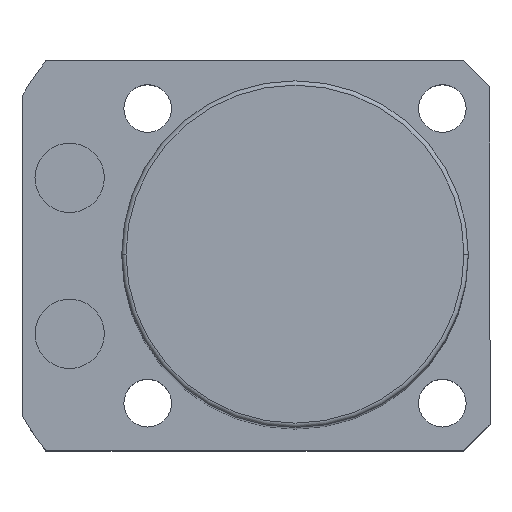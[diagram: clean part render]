
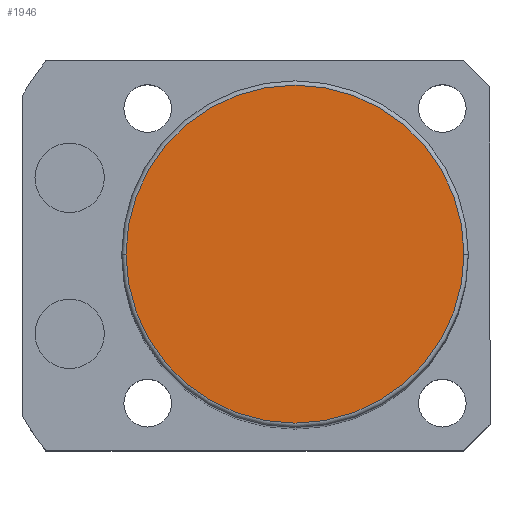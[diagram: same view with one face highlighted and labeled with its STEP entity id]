
A CAD part, top view. The second image highlights one B-rep face of the part: STEP entity #1946.
In plain terms, the highlighted planar face has unit normal (0, 0, 1).
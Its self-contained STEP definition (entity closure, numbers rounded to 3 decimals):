
#224 = VERTEX_POINT ( 'NONE', #2173 ) ;
#266 = CARTESIAN_POINT ( 'NONE',  ( 0., 0., 123.5 ) ) ;
#349 = VERTEX_POINT ( 'NONE', #2161 ) ;
#437 = DIRECTION ( 'NONE',  ( 1., 0., 0. ) ) ;
#449 = AXIS2_PLACEMENT_3D ( 'NONE', #1039, #1302, #2041 ) ;
#478 = AXIS2_PLACEMENT_3D ( 'NONE', #1199, #1004, #2345 ) ;
#719 = EDGE_LOOP ( 'NONE', ( #1828, #1557 ) ) ;
#979 = CIRCLE ( 'NONE', #1020, 19.5 ) ;
#986 = DIRECTION ( 'NONE',  ( 0., 0., 1. ) ) ;
#1004 = DIRECTION ( 'NONE',  ( 0., 0., 1. ) ) ;
#1020 = AXIS2_PLACEMENT_3D ( 'NONE', #266, #986, #437 ) ;
#1039 = CARTESIAN_POINT ( 'NONE',  ( 0., 0., 123.5 ) ) ;
#1044 = CIRCLE ( 'NONE', #478, 19.5 ) ;
#1199 = CARTESIAN_POINT ( 'NONE',  ( 0., 0., 123.5 ) ) ;
#1302 = DIRECTION ( 'NONE',  ( 0., 0., 1. ) ) ;
#1557 = ORIENTED_EDGE ( 'NONE', *, *, #2341, .T. ) ;
#1820 = PLANE ( 'NONE',  #449 ) ;
#1828 = ORIENTED_EDGE ( 'NONE', *, *, #2331, .T. ) ;
#1946 = ADVANCED_FACE ( 'NONE', ( #2172 ), #1820, .T. ) ;
#2041 = DIRECTION ( 'NONE',  ( 1., 0., 0. ) ) ;
#2161 = CARTESIAN_POINT ( 'NONE',  ( 19.5, 0., 123.5 ) ) ;
#2172 = FACE_OUTER_BOUND ( 'NONE', #719, .T. ) ;
#2173 = CARTESIAN_POINT ( 'NONE',  ( -19.5, 0., 123.5 ) ) ;
#2331 = EDGE_CURVE ( 'NONE', #349, #224, #979, .T. ) ;
#2341 = EDGE_CURVE ( 'NONE', #224, #349, #1044, .T. ) ;
#2345 = DIRECTION ( 'NONE',  ( 1., 0., 0. ) ) ;
